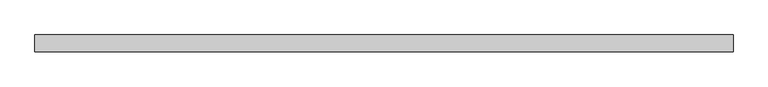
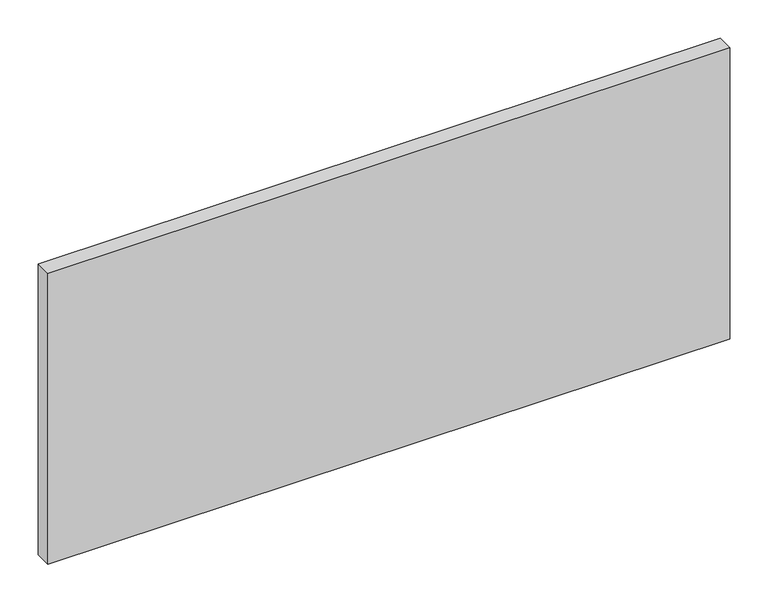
"""IFC4 building model written with IfcOpenShell, lengths in millimetres: plate geometry, Системная панель : С остеклением."""

from ifc_helpers import new_model, si_unit, origin, origin_with_axes, place, context, project, spatial, polyline, outline, extrude, source, transform, mapped, element, save


def plate_6a8ce772(model_context):
    return source(origin(), model_context, "Body", "SweptSolid", [
        extrude(outline(polyline([(512.6517207, 24.5), (-512.6517207, 24.5), (-512.6517207, 49.5), (512.6517207, 49.5), (512.6517207, 24.5)])), origin_with_axes(), (0.0, 0.0, 1.0), 463.2361077),
    ])


if __name__ == "__main__":
    model = new_model("IFC4")
    model_context = context("Model", 3, world=origin())
    ifc_project = project(units=[si_unit("LENGTHUNIT", "METRE", prefix="MILLI")], contexts=[model_context])
    site = spatial("IfcSite", under=ifc_project)
    building = spatial("IfcBuilding", under=site)
    placement = place(None, origin())
    plate_shape = plate_6a8ce772(model_context)
    element("IfcPlate", 1, ObjectType="Системная панель : С остеклением", at=placement, inside=building, context=model_context, shape_type="MappedRepresentation", body=[
        mapped(plate_shape, transform((0.0, 0.0, 0.0), x_axis=(1.0, 0.0, 0.0), y_axis=(0.0, 1.0, 0.0), z_axis=(0.0, 0.0, 1.0))),
    ])
    save(model, "model.ifc")
